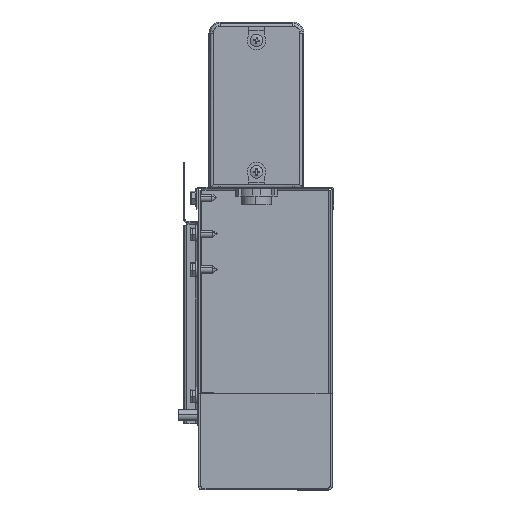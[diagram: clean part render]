
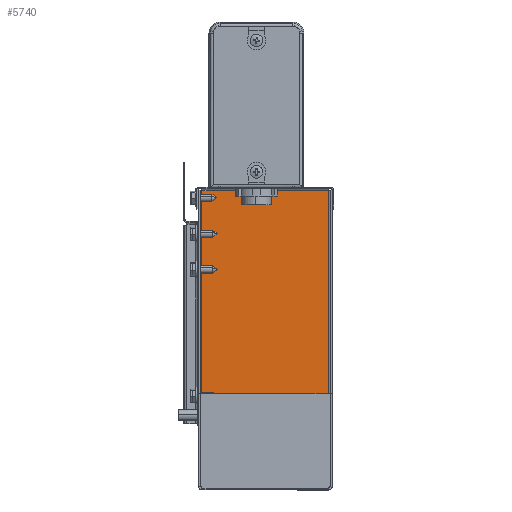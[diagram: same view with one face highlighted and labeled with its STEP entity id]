
A CAD part, top view. The second image highlights one B-rep face of the part: STEP entity #5740.
In plain terms, the highlighted planar face has unit normal (0, 0, 1).
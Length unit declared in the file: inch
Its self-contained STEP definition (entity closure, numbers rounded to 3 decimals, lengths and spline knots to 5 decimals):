
#60 = EDGE_LOOP ( 'NONE', ( #4167, #4081, #3990, #3711, #3521, #3380, #3093, #2951, #2814, #2452, #2303, #1866 ) ) ;
#311 = CARTESIAN_POINT ( 'NONE',  ( 5.23077, 0.75935, 0.034 ) ) ;
#497 = EDGE_LOOP ( 'NONE', ( #4805, #4565 ) ) ;
#516 = CARTESIAN_POINT ( 'NONE',  ( 2.89942, 2.75087, 0.034 ) ) ;
#551 = CARTESIAN_POINT ( 'NONE',  ( 2.77442, 2.75087, 0.034 ) ) ;
#568 = EDGE_LOOP ( 'NONE', ( #4508, #4354 ) ) ;
#673 = DIRECTION ( 'NONE',  ( 1., 0., 0. ) ) ;
#762 = VERTEX_POINT ( 'NONE', #516 ) ;
#837 = VERTEX_POINT ( 'NONE', #311 ) ;
#960 = VERTEX_POINT ( 'NONE', #1807 ) ;
#1060 = VECTOR ( 'NONE', #673, 39.37008 ) ;
#1287 = DIRECTION ( 'NONE',  ( 1., 0., 0. ) ) ;
#1307 = CARTESIAN_POINT ( 'NONE',  ( 8.24122, 0.76132, 0.034 ) ) ;
#1605 = VERTEX_POINT ( 'NONE', #13772 ) ;
#1807 = CARTESIAN_POINT ( 'NONE',  ( 5.23077, 0.76132, 0.034 ) ) ;
#1866 = ORIENTED_EDGE ( 'NONE', *, *, #7873, .T. ) ;
#2021 = VERTEX_POINT ( 'NONE', #11387 ) ;
#2068 = DIRECTION ( 'NONE',  ( -1., 0., 0. ) ) ;
#2099 = LINE ( 'NONE', #4943, #1060 ) ;
#2303 = ORIENTED_EDGE ( 'NONE', *, *, #3342, .T. ) ;
#2363 = EDGE_CURVE ( 'NONE', #10260, #837, #6133, .T. ) ;
#2452 = ORIENTED_EDGE ( 'NONE', *, *, #8851, .T. ) ;
#2468 = DIRECTION ( 'NONE',  ( 0., -1., 0. ) ) ;
#2748 = VERTEX_POINT ( 'NONE', #5993 ) ;
#2814 = ORIENTED_EDGE ( 'NONE', *, *, #2363, .T. ) ;
#2951 = ORIENTED_EDGE ( 'NONE', *, *, #6091, .T. ) ;
#3093 = ORIENTED_EDGE ( 'NONE', *, *, #10921, .T. ) ;
#3135 = EDGE_CURVE ( 'NONE', #6273, #762, #11198, .T. ) ;
#3215 = DIRECTION ( 'NONE',  ( -1., 0., 0. ) ) ;
#3222 = DIRECTION ( 'NONE',  ( 0., 0., -1. ) ) ;
#3237 = CARTESIAN_POINT ( 'NONE',  ( 2.09737, 8.08222, 0.034 ) ) ;
#3242 = DIRECTION ( 'NONE',  ( 0., 0., -1. ) ) ;
#3248 = CARTESIAN_POINT ( 'NONE',  ( 2.09737, 0.75935, 0.034 ) ) ;
#3256 = CARTESIAN_POINT ( 'NONE',  ( 2.83692, 2.75087, 0.034 ) ) ;
#3342 = EDGE_CURVE ( 'NONE', #960, #5061, #12894, .T. ) ;
#3380 = ORIENTED_EDGE ( 'NONE', *, *, #5056, .T. ) ;
#3494 = VERTEX_POINT ( 'NONE', #6970 ) ;
#3521 = ORIENTED_EDGE ( 'NONE', *, *, #11096, .T. ) ;
#3630 = VERTEX_POINT ( 'NONE', #6437 ) ;
#3711 = ORIENTED_EDGE ( 'NONE', *, *, #3946, .T. ) ;
#3799 = CARTESIAN_POINT ( 'NONE',  ( 5.23273, 8.08222, 0.034 ) ) ;
#3802 = DIRECTION ( 'NONE',  ( 0., 1., 0. ) ) ;
#3858 = DIRECTION ( 'NONE',  ( 0., 1., 0. ) ) ;
#3946 = EDGE_CURVE ( 'NONE', #2748, #1605, #8730, .T. ) ;
#3990 = ORIENTED_EDGE ( 'NONE', *, *, #6358, .T. ) ;
#4002 = CARTESIAN_POINT ( 'NONE',  ( 2.09737, 8.08222, 0.034 ) ) ;
#4081 = ORIENTED_EDGE ( 'NONE', *, *, #6894, .T. ) ;
#4167 = ORIENTED_EDGE ( 'NONE', *, *, #8506, .T. ) ;
#4235 = VECTOR ( 'NONE', #3802, 39.37008 ) ;
#4242 = DIRECTION ( 'NONE',  ( 0., 0., 1. ) ) ;
#4354 = ORIENTED_EDGE ( 'NONE', *, *, #9794, .T. ) ;
#4375 = LINE ( 'NONE', #3799, #4235 ) ;
#4458 = CARTESIAN_POINT ( 'NONE',  ( 5.23273, 0.76132, 0.034 ) ) ;
#4508 = ORIENTED_EDGE ( 'NONE', *, *, #10757, .T. ) ;
#4565 = ORIENTED_EDGE ( 'NONE', *, *, #12806, .T. ) ;
#4629 = VERTEX_POINT ( 'NONE', #9237 ) ;
#4805 = ORIENTED_EDGE ( 'NONE', *, *, #3135, .T. ) ;
#4881 = CARTESIAN_POINT ( 'NONE',  ( 2.0954, 8.08222, 0.034 ) ) ;
#4903 = PLANE ( 'NONE',  #11620 ) ;
#4911 = AXIS2_PLACEMENT_3D ( 'NONE', #8446, #3222, #11731 ) ;
#4943 = CARTESIAN_POINT ( 'NONE',  ( 2.09737, 0.76132, 0.034 ) ) ;
#5056 = EDGE_CURVE ( 'NONE', #12285, #5778, #11521, .T. ) ;
#5061 = VERTEX_POINT ( 'NONE', #4458 ) ;
#5110 = CIRCLE ( 'NONE', #6540, 0.4375 ) ;
#5166 = LINE ( 'NONE', #12488, #11770 ) ;
#5415 = VERTEX_POINT ( 'NONE', #8037 ) ;
#5566 = CARTESIAN_POINT ( 'NONE',  ( 2.09737, -2.24913, 0.034 ) ) ;
#5739 = CARTESIAN_POINT ( 'NONE',  ( 2.0954, 8.08222, 0.034 ) ) ;
#5740 = ADVANCED_FACE ( 'NONE', ( #10150, #7387, #13386 ), #4903, .T. ) ;
#5778 = VERTEX_POINT ( 'NONE', #9371 ) ;
#5993 = CARTESIAN_POINT ( 'NONE',  ( 2.09737, 8.08419, 0.034 ) ) ;
#6091 = EDGE_CURVE ( 'NONE', #3494, #10260, #7864, .T. ) ;
#6133 = LINE ( 'NONE', #9520, #6306 ) ;
#6273 = VERTEX_POINT ( 'NONE', #551 ) ;
#6306 = VECTOR ( 'NONE', #9535, 39.37008 ) ;
#6358 = EDGE_CURVE ( 'NONE', #3630, #2748, #5166, .T. ) ;
#6437 = CARTESIAN_POINT ( 'NONE',  ( 5.23077, 8.08419, 0.034 ) ) ;
#6540 = AXIS2_PLACEMENT_3D ( 'NONE', #9082, #9280, #2068 ) ;
#6894 = EDGE_CURVE ( 'NONE', #12153, #3630, #7775, .T. ) ;
#6936 = DIRECTION ( 'NONE',  ( -1., 0., 0. ) ) ;
#6963 = DIRECTION ( 'NONE',  ( 0., 0., -1. ) ) ;
#6970 = CARTESIAN_POINT ( 'NONE',  ( 2.09737, 0.76132, 0.034 ) ) ;
#6976 = CARTESIAN_POINT ( 'NONE',  ( 4.32032, 1.37587, 0.034 ) ) ;
#7387 = FACE_BOUND ( 'NONE', #568, .T. ) ;
#7439 = AXIS2_PLACEMENT_3D ( 'NONE', #6976, #6963, #6936 ) ;
#7673 = LINE ( 'NONE', #10110, #7854 ) ;
#7775 = LINE ( 'NONE', #8424, #13539 ) ;
#7854 = VECTOR ( 'NONE', #12784, 39.37008 ) ;
#7864 = LINE ( 'NONE', #5566, #11481 ) ;
#7873 = EDGE_CURVE ( 'NONE', #5061, #4629, #4375, .T. ) ;
#7946 = CIRCLE ( 'NONE', #4911, 0.0625 ) ;
#7959 = DIRECTION ( 'NONE',  ( 0., -1., 0. ) ) ;
#8037 = CARTESIAN_POINT ( 'NONE',  ( 4.75782, 1.37587, 0.034 ) ) ;
#8304 = VECTOR ( 'NONE', #2468, 39.37008 ) ;
#8424 = CARTESIAN_POINT ( 'NONE',  ( 5.23077, 8.08222, 0.034 ) ) ;
#8446 = CARTESIAN_POINT ( 'NONE',  ( 2.83692, 2.75087, 0.034 ) ) ;
#8506 = EDGE_CURVE ( 'NONE', #4629, #12153, #7673, .T. ) ;
#8730 = LINE ( 'NONE', #4002, #8304 ) ;
#8851 = EDGE_CURVE ( 'NONE', #837, #960, #9113, .T. ) ;
#9082 = CARTESIAN_POINT ( 'NONE',  ( 4.32032, 1.37587, 0.034 ) ) ;
#9113 = LINE ( 'NONE', #13700, #9141 ) ;
#9141 = VECTOR ( 'NONE', #13665, 39.37008 ) ;
#9237 = CARTESIAN_POINT ( 'NONE',  ( 5.23273, 8.08222, 0.034 ) ) ;
#9280 = DIRECTION ( 'NONE',  ( 0., 0., -1. ) ) ;
#9371 = CARTESIAN_POINT ( 'NONE',  ( 2.0954, 0.76132, 0.034 ) ) ;
#9520 = CARTESIAN_POINT ( 'NONE',  ( 8.24122, 0.75935, 0.034 ) ) ;
#9535 = DIRECTION ( 'NONE',  ( 1., 0., 0. ) ) ;
#9620 = DIRECTION ( 'NONE',  ( 1., 0., 0. ) ) ;
#9794 = EDGE_CURVE ( 'NONE', #5415, #2021, #13938, .T. ) ;
#10004 = LINE ( 'NONE', #3237, #13186 ) ;
#10110 = CARTESIAN_POINT ( 'NONE',  ( 8.24122, 8.08222, 0.034 ) ) ;
#10150 = FACE_BOUND ( 'NONE', #497, .T. ) ;
#10193 = CARTESIAN_POINT ( 'NONE',  ( 5.23077, 8.08222, 0.034 ) ) ;
#10260 = VERTEX_POINT ( 'NONE', #3248 ) ;
#10757 = EDGE_CURVE ( 'NONE', #2021, #5415, #5110, .T. ) ;
#10921 = EDGE_CURVE ( 'NONE', #5778, #3494, #2099, .T. ) ;
#11096 = EDGE_CURVE ( 'NONE', #1605, #12285, #10004, .T. ) ;
#11198 = CIRCLE ( 'NONE', #12389, 0.0625 ) ;
#11387 = CARTESIAN_POINT ( 'NONE',  ( 3.88282, 1.37587, 0.034 ) ) ;
#11481 = VECTOR ( 'NONE', #12066, 39.37008 ) ;
#11521 = LINE ( 'NONE', #5739, #13684 ) ;
#11620 = AXIS2_PLACEMENT_3D ( 'NONE', #12820, #4242, #9620 ) ;
#11731 = DIRECTION ( 'NONE',  ( -1., 0., 0. ) ) ;
#11770 = VECTOR ( 'NONE', #12457, 39.37008 ) ;
#12066 = DIRECTION ( 'NONE',  ( 0., -1., 0. ) ) ;
#12153 = VERTEX_POINT ( 'NONE', #10193 ) ;
#12285 = VERTEX_POINT ( 'NONE', #4881 ) ;
#12389 = AXIS2_PLACEMENT_3D ( 'NONE', #3256, #3242, #3215 ) ;
#12457 = DIRECTION ( 'NONE',  ( -1., 0., 0. ) ) ;
#12488 = CARTESIAN_POINT ( 'NONE',  ( 8.24122, 8.08419, 0.034 ) ) ;
#12784 = DIRECTION ( 'NONE',  ( -1., 0., 0. ) ) ;
#12806 = EDGE_CURVE ( 'NONE', #762, #6273, #7946, .T. ) ;
#12820 = CARTESIAN_POINT ( 'NONE',  ( 8.24122, 8.08222, 0.034 ) ) ;
#12881 = VECTOR ( 'NONE', #1287, 39.37008 ) ;
#12894 = LINE ( 'NONE', #1307, #12881 ) ;
#13186 = VECTOR ( 'NONE', #13421, 39.37008 ) ;
#13386 = FACE_OUTER_BOUND ( 'NONE', #60, .T. ) ;
#13421 = DIRECTION ( 'NONE',  ( -1., 0., 0. ) ) ;
#13539 = VECTOR ( 'NONE', #3858, 39.37008 ) ;
#13665 = DIRECTION ( 'NONE',  ( 0., 1., 0. ) ) ;
#13684 = VECTOR ( 'NONE', #7959, 39.37008 ) ;
#13700 = CARTESIAN_POINT ( 'NONE',  ( 5.23077, -2.24913, 0.034 ) ) ;
#13772 = CARTESIAN_POINT ( 'NONE',  ( 2.09737, 8.08222, 0.034 ) ) ;
#13938 = CIRCLE ( 'NONE', #7439, 0.4375 ) ;
